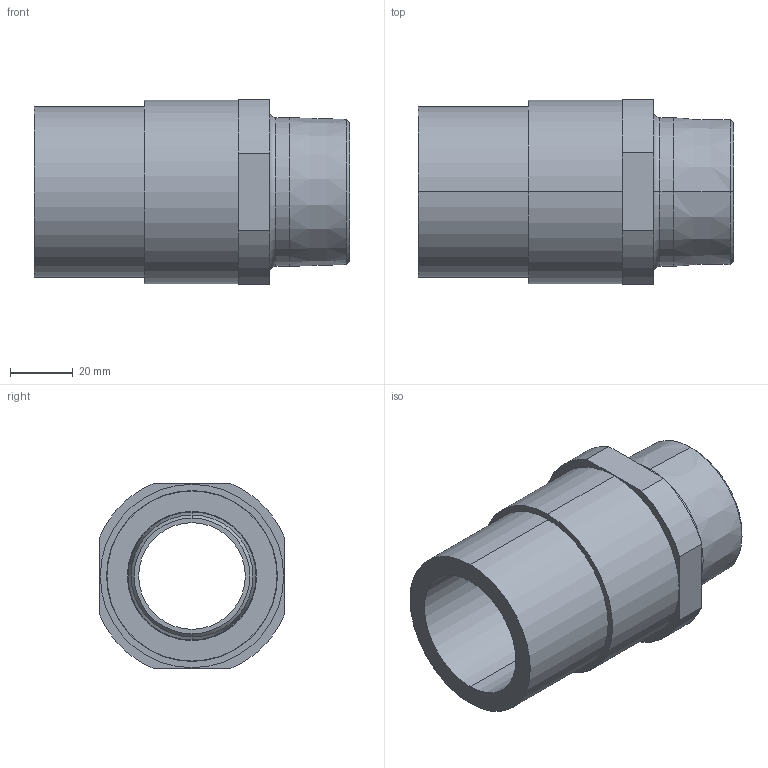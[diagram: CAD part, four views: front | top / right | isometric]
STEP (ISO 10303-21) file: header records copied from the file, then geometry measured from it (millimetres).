
FILE_DESCRIPTION (( 'STEP AP214' ), '1' );
FILE_NAME ('KP_C17-54M.step', '2012-09-03T10:40:28', ( 'robinj' ), ( 'Microsoft' ), 'SwSTEP 2.0', 'SolidWorks 2012', '' );
FILE_SCHEMA (( 'AUTOMOTIVE_DESIGN' ));
Length unit declared in the file: millimetre
Products named in the file (1): KP_C17-54M
Bounding box: 100.5 x 59 x 59 mm (x, y, z)
Volume: 113278.8 mm3; surface area: 53724 mm2
Topology: 3 solids, 3 shells, 58 faces, 122 edges, 74 vertices
Faces by surface type: cylinder 24, plane 14, cone 12, torus 8
Entity records: 2266 total; most frequent: DIRECTION 314, CARTESIAN_POINT 255, ORIENTED_EDGE 244, AXIS2_PLACEMENT_3D 133, EDGE_CURVE 122, VERTEX_POINT 74, CIRCLE 74, EDGE_LOOP 68
